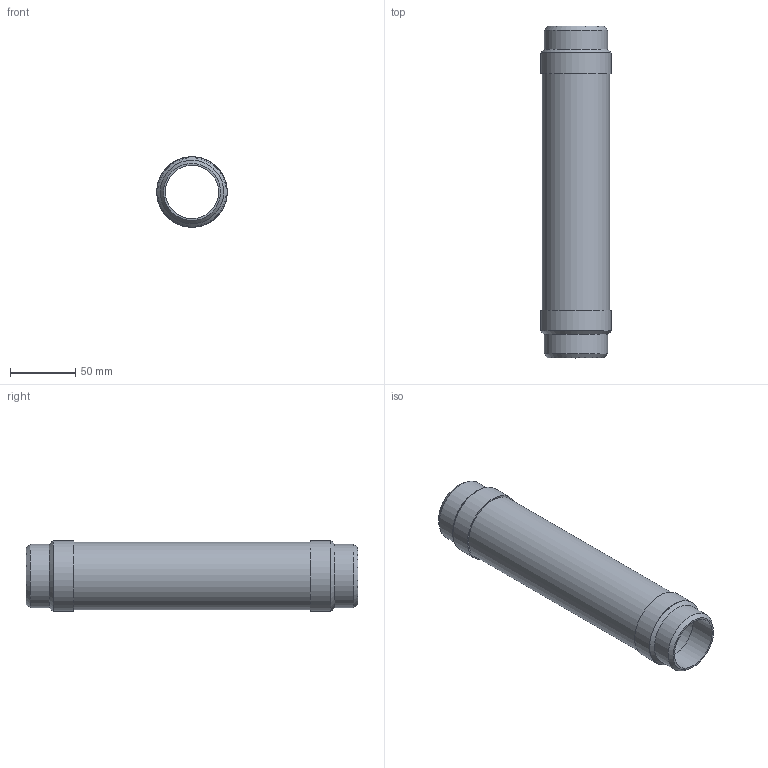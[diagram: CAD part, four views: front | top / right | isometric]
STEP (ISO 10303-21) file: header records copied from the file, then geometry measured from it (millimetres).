
FILE_DESCRIPTION(/* description */ (''),/* implementation_level */ '2;1');
FILE_NAME(/* name */ 'C:\001_Work\Designs\CSAWN\CSAWN-1.5x10.stp',/* time_stamp */ '2016-06-04T17:07:32-04:00',/* author */ ('rramoutar'),/* organization */ ('Mason Industries Inc.'),/* preprocessor_version */ 'ST-DEVELOPER v15.6',/* originating_system */ 'Autodesk Inventor 2015',/* authorisation */ '');
FILE_SCHEMA (('CONFIG_CONTROL_DESIGN'));
Length unit declared in the file: inch
Products named in the file (1): CSAWN-1.5x10
Bounding box: 53.89 x 254 x 53.89 mm (x, y, z)
Volume: 40507.6 mm3; surface area: 94280.4 mm2
Topology: 5 solids, 5 shells, 24 faces, 40 edges, 26 vertices
Faces by surface type: cylinder 10, plane 10, cone 4
Full cylindrical faces by diameter (mm): 40.894 x2, 48.514 x2, 50.8 x1, 51.511 x3, 53.892 x2
Entity records: 564 total; most frequent: DIRECTION 98, CARTESIAN_POINT 73, AXIS2_PLACEMENT_3D 49, EDGE_LOOP 48, ORIENTED_EDGE 48, STYLED_ITEM 29, FACE_BOUND 24, FACE_OUTER_BOUND 24
